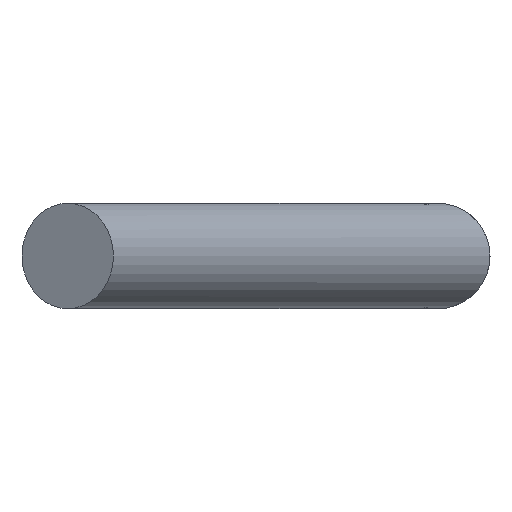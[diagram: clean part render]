
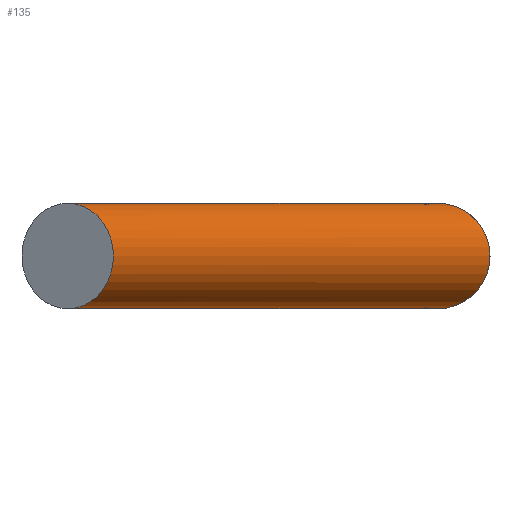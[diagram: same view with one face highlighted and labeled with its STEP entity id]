
A CAD part, left-side view. The second image highlights one B-rep face of the part: STEP entity #135.
In plain terms, the highlighted cylindrical face has radius 5 mm (diameter 10 mm), a full revolution.
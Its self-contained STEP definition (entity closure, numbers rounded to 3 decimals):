
#62=ELLIPSE('',#127,5.176,5.);
#63=ELLIPSE('',#128,5.176,5.);
#64=CYLINDRICAL_SURFACE('',#126,5.);
#67=ORIENTED_EDGE('',*,*,#80,.F.);
#68=ORIENTED_EDGE('',*,*,#81,.T.);
#69=ORIENTED_EDGE('',*,*,#82,.F.);
#74=CIRCLE('',#125,5.);
#76=VERTEX_POINT('',#113);
#77=VERTEX_POINT('',#116);
#78=VERTEX_POINT('',#117);
#80=EDGE_CURVE('',#76,#76,#74,.T.);
#81=EDGE_CURVE('',#77,#78,#62,.T.);
#82=EDGE_CURVE('',#77,#78,#63,.T.);
#85=EDGE_LOOP('',(#67));
#86=EDGE_LOOP('',(#68,#69));
#91=FACE_BOUND('',#85,.T.);
#92=FACE_BOUND('',#86,.T.);
#98=DIRECTION('',(-0.866,0.5,0.));
#99=DIRECTION('',(2.5,4.33,0.));
#100=DIRECTION('',(-0.866,0.5,0.));
#101=DIRECTION('',(0.,0.,-1.));
#102=DIRECTION('',(-0.966,0.259,0.));
#103=DIRECTION('',(0.259,0.966,0.));
#104=DIRECTION('',(0.966,-0.259,0.));
#105=DIRECTION('',(-0.259,-0.966,0.));
#113=CARTESIAN_POINT('',(344287.405,-151268.99,0.));
#114=CARTESIAN_POINT('',(344284.905,-151273.32,0.));
#115=CARTESIAN_POINT('',(344284.905,-151273.32,0.));
#116=CARTESIAN_POINT('',(344345.527,-151308.32,-5.));
#117=CARTESIAN_POINT('',(344345.527,-151308.32,5.));
#118=CARTESIAN_POINT('',(344345.527,-151308.32,0.));
#119=CARTESIAN_POINT('',(344345.527,-151308.32,0.));
#125=AXIS2_PLACEMENT_3D('',#114,#98,#99);
#126=AXIS2_PLACEMENT_3D('',#115,#100,#101);
#127=AXIS2_PLACEMENT_3D('',#118,#102,#103);
#128=AXIS2_PLACEMENT_3D('',#119,#104,#105);
#135=ADVANCED_FACE('',(#91,#92),#64,.T.);
